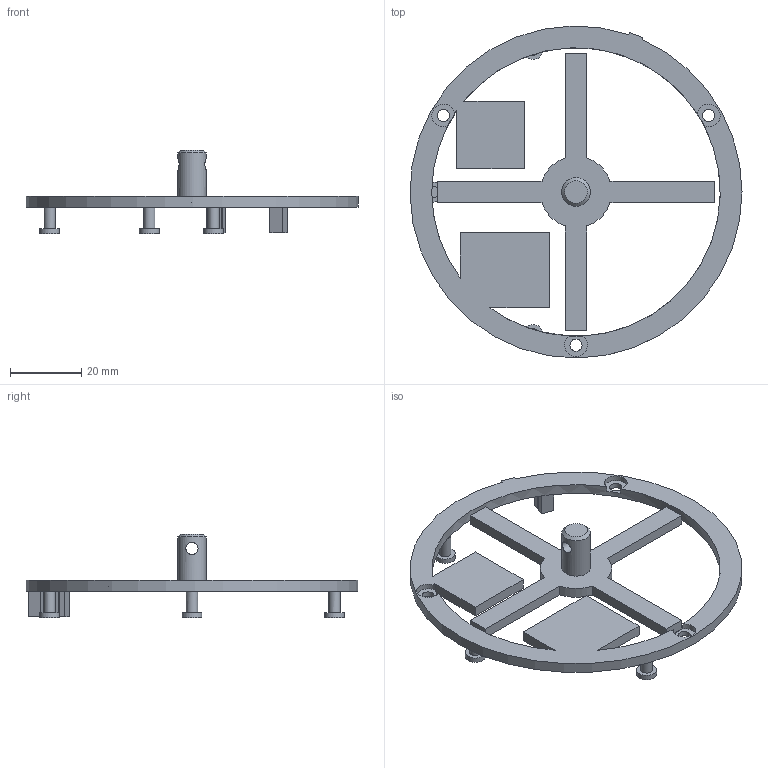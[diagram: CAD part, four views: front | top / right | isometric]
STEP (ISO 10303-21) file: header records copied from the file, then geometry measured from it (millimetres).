
FILE_DESCRIPTION(('Open CASCADE Model'),'2;1');
FILE_NAME('Open CASCADE Shape Model','2026-11-11T19:28:17',('Author'),( 'Open CASCADE'),'Open CASCADE STEP processor 7.9','Open CASCADE 7.9' ,'Unknown');
FILE_SCHEMA(('AUTOMOTIVE_DESIGN { 1 0 10303 214 1 1 1 1 }'));
Length unit declared in the file: millimetre
Products named in the file (1): Open CASCADE STEP translator 7.9 2
Bounding box: 93.19 x 93.19 x 23.5 mm (x, y, z)
Volume: 11527.2 mm3; surface area: 11221.5 mm2
Topology: 1 solids, 1 shells, 85 faces, 219 edges, 143 vertices
Faces by surface type: plane 58, cylinder 26, cone 1
Full cylindrical faces by diameter (mm): 3.2 x4, 3.4 x4, 5.6 x4, 8 x1
Entity records: 6156 total; most frequent: CARTESIAN_POINT 1666, DIRECTION 865, LINE 504, VECTOR 504, ORIENTED_EDGE 438, PCURVE 438, DEFINITIONAL_REPRESENTATION 438, EDGE_CURVE 219
